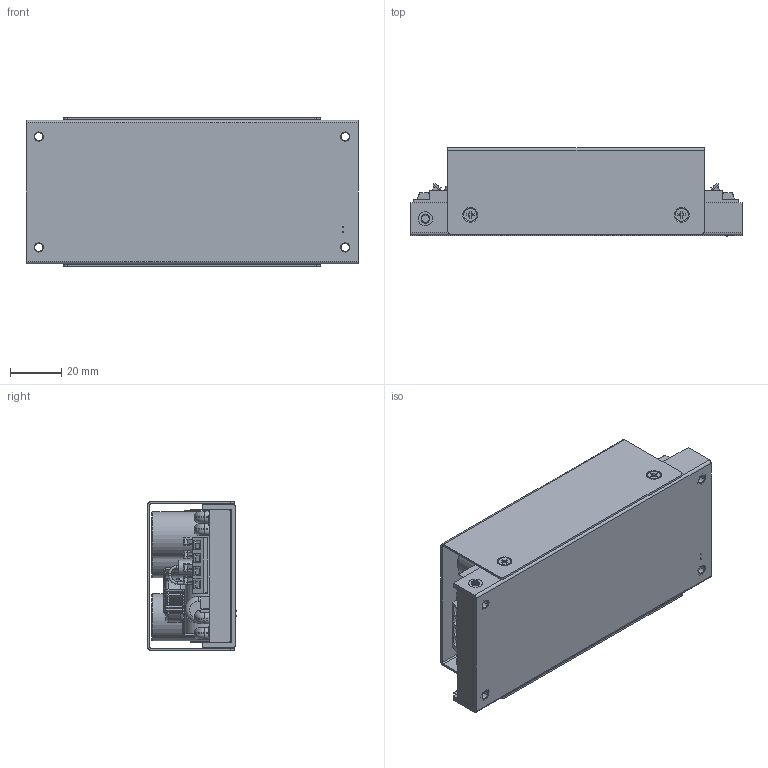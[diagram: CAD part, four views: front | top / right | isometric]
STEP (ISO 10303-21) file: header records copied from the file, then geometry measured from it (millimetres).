
FILE_DESCRIPTION (( 'STEP AP214' ), '1' );
FILE_NAME ('CRT100W12.STEP', '2025-02-25T00:22:34', ( 'cincon' ), ( '' ), 'SwSTEP 2.0', 'SolidWorks 2020', '' );
FILE_SCHEMA (( 'AUTOMOTIVE_DESIGN' ));
Length unit declared in the file: millimetre
Products named in the file (1): CRT100W12
Bounding box: 129.4 x 34.5 x 57.9 mm (x, y, z)
Volume: 126048.7 mm3; surface area: 72210.7 mm2
Topology: 32 solids, 45 shells, 2255 faces, 6113 edges, 3745 vertices
Faces by surface type: plane 871, cylinder 771, torus 301, bspline 246, cone 66
Entity records: 118872 total; most frequent: CARTESIAN_POINT 39882, ORIENTED_EDGE 11906, DIRECTION 10717, EDGE_CURVE 5953, AXIS2_PLACEMENT_3D 3892, VERTEX_POINT 3745, VECTOR 2933, LINE 2933
